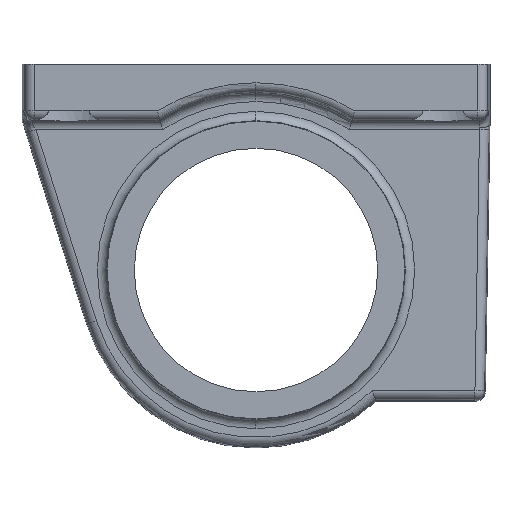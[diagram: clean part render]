
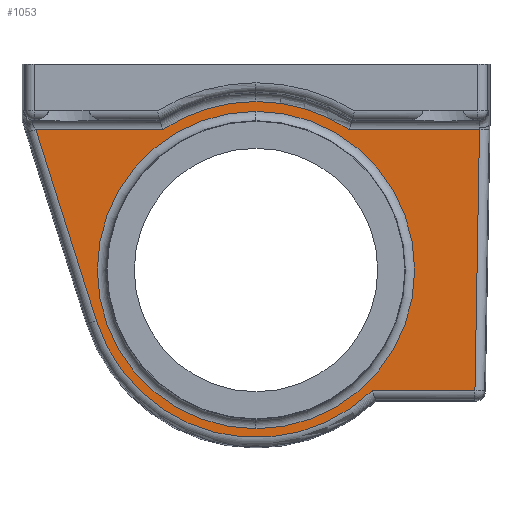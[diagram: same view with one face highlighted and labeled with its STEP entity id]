
A CAD part, front view. The second image highlights one B-rep face of the part: STEP entity #1053.
In plain terms, the highlighted planar face has unit normal (0, -1, 0).
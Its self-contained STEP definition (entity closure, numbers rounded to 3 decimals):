
#77 = DIRECTION ( 'NONE',  ( 0., 1., 0. ) ) ;
#90 = CARTESIAN_POINT ( 'NONE',  ( 0., -7.5, -2.5 ) ) ;
#135 = DIRECTION ( 'NONE',  ( -1., 0., 0. ) ) ;
#152 = LINE ( 'NONE', #1093, #3257 ) ;
#156 = DIRECTION ( 'NONE',  ( 0.017, 0., 1. ) ) ;
#293 = CARTESIAN_POINT ( 'NONE',  ( 0., -7.5, -20.5 ) ) ;
#310 = CARTESIAN_POINT ( 'NONE',  ( 0., -7.5, -20.5 ) ) ;
#373 = FACE_BOUND ( 'NONE', #671, .T. ) ;
#469 = CARTESIAN_POINT ( 'NONE',  ( 9.95, -7.5, -5.5 ) ) ;
#483 = EDGE_CURVE ( 'NONE', #2140, #3121, #1049, .T. ) ;
#485 = DIRECTION ( 'NONE',  ( 0.302, 0., -0.953 ) ) ;
#486 = VERTEX_POINT ( 'NONE', #469 ) ;
#564 = VERTEX_POINT ( 'NONE', #3462 ) ;
#671 = EDGE_LOOP ( 'NONE', ( #3633, #3608 ) ) ;
#679 = ORIENTED_EDGE ( 'NONE', *, *, #1427, .T. ) ;
#689 = FACE_OUTER_BOUND ( 'NONE', #1738, .T. ) ;
#748 = CARTESIAN_POINT ( 'NONE',  ( -23.515, -7.5, -5.5 ) ) ;
#759 = DIRECTION ( 'NONE',  ( 0., 0., 1. ) ) ;
#788 = AXIS2_PLACEMENT_3D ( 'NONE', #293, #916, #1568 ) ;
#916 = DIRECTION ( 'NONE',  ( 0., 1., 0. ) ) ;
#993 = DIRECTION ( 'NONE',  ( 0., -1., 0. ) ) ;
#1033 = CARTESIAN_POINT ( 'NONE',  ( 0., -7.5, -20.5 ) ) ;
#1049 = LINE ( 'NONE', #2688, #2115 ) ;
#1053 = ADVANCED_FACE ( 'NONE', ( #689, #373 ), #3579, .F. ) ;
#1058 = CARTESIAN_POINT ( 'NONE',  ( 23.382, -7.5, -33.386 ) ) ;
#1093 = CARTESIAN_POINT ( 'NONE',  ( 10.247, -7.5, -5.5 ) ) ;
#1098 = ORIENTED_EDGE ( 'NONE', *, *, #483, .T. ) ;
#1154 = DIRECTION ( 'NONE',  ( 0., -1., 0. ) ) ;
#1320 = CARTESIAN_POINT ( 'NONE',  ( -17.051, -7.5, -25.902 ) ) ;
#1347 = LINE ( 'NONE', #1719, #3058 ) ;
#1373 = DIRECTION ( 'NONE',  ( 0., 0., 1. ) ) ;
#1380 = CIRCLE ( 'NONE', #2786, 17.886 ) ;
#1427 = EDGE_CURVE ( 'NONE', #3017, #4024, #1380, .T. ) ;
#1482 = VERTEX_POINT ( 'NONE', #90 ) ;
#1494 = LINE ( 'NONE', #3047, #3054 ) ;
#1497 = EDGE_CURVE ( 'NONE', #564, #486, #152, .T. ) ;
#1504 = EDGE_CURVE ( 'NONE', #1482, #2140, #4060, .T. ) ;
#1568 = DIRECTION ( 'NONE',  ( 0., 0., 1. ) ) ;
#1575 = CARTESIAN_POINT ( 'NONE',  ( 12.404, -7.5, -33.386 ) ) ;
#1641 = EDGE_CURVE ( 'NONE', #3121, #3017, #1494, .T. ) ;
#1647 = DIRECTION ( 'NONE',  ( 0., 0., 1. ) ) ;
#1666 = DIRECTION ( 'NONE',  ( 0., -1., 0. ) ) ;
#1687 = LINE ( 'NONE', #2674, #2063 ) ;
#1697 = EDGE_CURVE ( 'NONE', #486, #1482, #3459, .T. ) ;
#1719 = CARTESIAN_POINT ( 'NONE',  ( 24.348, -7.5, -33.386 ) ) ;
#1738 = EDGE_LOOP ( 'NONE', ( #3690, #2033, #1098, #4102, #679, #2828, #2969, #3701 ) ) ;
#1920 = EDGE_CURVE ( 'NONE', #4024, #3549, #1347, .T. ) ;
#1968 = CARTESIAN_POINT ( 'NONE',  ( 0., -7.5, -20.5 ) ) ;
#2033 = ORIENTED_EDGE ( 'NONE', *, *, #1504, .T. ) ;
#2063 = VECTOR ( 'NONE', #156, 1000. ) ;
#2072 = EDGE_CURVE ( 'NONE', #3451, #3623, #3137, .T. ) ;
#2115 = VECTOR ( 'NONE', #3735, 1000. ) ;
#2140 = VERTEX_POINT ( 'NONE', #2345 ) ;
#2150 = EDGE_CURVE ( 'NONE', #3549, #564, #1687, .T. ) ;
#2156 = DIRECTION ( 'NONE',  ( 0., 0., 1. ) ) ;
#2177 = CARTESIAN_POINT ( 'NONE',  ( 0., -7.5, -20.5 ) ) ;
#2264 = AXIS2_PLACEMENT_3D ( 'NONE', #1968, #2347, #1647 ) ;
#2345 = CARTESIAN_POINT ( 'NONE',  ( -9.95, -7.5, -5.5 ) ) ;
#2347 = DIRECTION ( 'NONE',  ( 0., 1., 0. ) ) ;
#2674 = CARTESIAN_POINT ( 'NONE',  ( 23.877, -7.5, -5.055 ) ) ;
#2688 = CARTESIAN_POINT ( 'NONE',  ( -24.859, -7.5, -5.5 ) ) ;
#2786 = AXIS2_PLACEMENT_3D ( 'NONE', #310, #993, #4145 ) ;
#2800 = CIRCLE ( 'NONE', #788, 16.948 ) ;
#2828 = ORIENTED_EDGE ( 'NONE', *, *, #1920, .T. ) ;
#2946 = DIRECTION ( 'NONE',  ( 1., 0., 0. ) ) ;
#2969 = ORIENTED_EDGE ( 'NONE', *, *, #2150, .T. ) ;
#3017 = VERTEX_POINT ( 'NONE', #1320 ) ;
#3047 = CARTESIAN_POINT ( 'NONE',  ( -17.051, -7.5, -25.902 ) ) ;
#3054 = VECTOR ( 'NONE', #485, 1000. ) ;
#3058 = VECTOR ( 'NONE', #2946, 1000. ) ;
#3121 = VERTEX_POINT ( 'NONE', #748 ) ;
#3131 = AXIS2_PLACEMENT_3D ( 'NONE', #3620, #1666, #759 ) ;
#3137 = CIRCLE ( 'NONE', #3534, 16.948 ) ;
#3230 = CARTESIAN_POINT ( 'NONE',  ( 0., -7.5, -37.448 ) ) ;
#3257 = VECTOR ( 'NONE', #135, 1000. ) ;
#3422 = EDGE_CURVE ( 'NONE', #3623, #3451, #2800, .T. ) ;
#3451 = VERTEX_POINT ( 'NONE', #3230 ) ;
#3459 = CIRCLE ( 'NONE', #3531, 18. ) ;
#3462 = CARTESIAN_POINT ( 'NONE',  ( 23.869, -7.5, -5.5 ) ) ;
#3531 = AXIS2_PLACEMENT_3D ( 'NONE', #2177, #1154, #2156 ) ;
#3534 = AXIS2_PLACEMENT_3D ( 'NONE', #1033, #77, #1373 ) ;
#3549 = VERTEX_POINT ( 'NONE', #1058 ) ;
#3579 = PLANE ( 'NONE',  #2264 ) ;
#3608 = ORIENTED_EDGE ( 'NONE', *, *, #2072, .T. ) ;
#3620 = CARTESIAN_POINT ( 'NONE',  ( 0., -7.5, -20.5 ) ) ;
#3623 = VERTEX_POINT ( 'NONE', #3808 ) ;
#3633 = ORIENTED_EDGE ( 'NONE', *, *, #3422, .T. ) ;
#3690 = ORIENTED_EDGE ( 'NONE', *, *, #1697, .T. ) ;
#3701 = ORIENTED_EDGE ( 'NONE', *, *, #1497, .T. ) ;
#3735 = DIRECTION ( 'NONE',  ( -1., 0., 0. ) ) ;
#3808 = CARTESIAN_POINT ( 'NONE',  ( 0., -7.5, -3.552 ) ) ;
#4024 = VERTEX_POINT ( 'NONE', #1575 ) ;
#4060 = CIRCLE ( 'NONE', #3131, 18. ) ;
#4102 = ORIENTED_EDGE ( 'NONE', *, *, #1641, .T. ) ;
#4145 = DIRECTION ( 'NONE',  ( 0., 0., 1. ) ) ;
